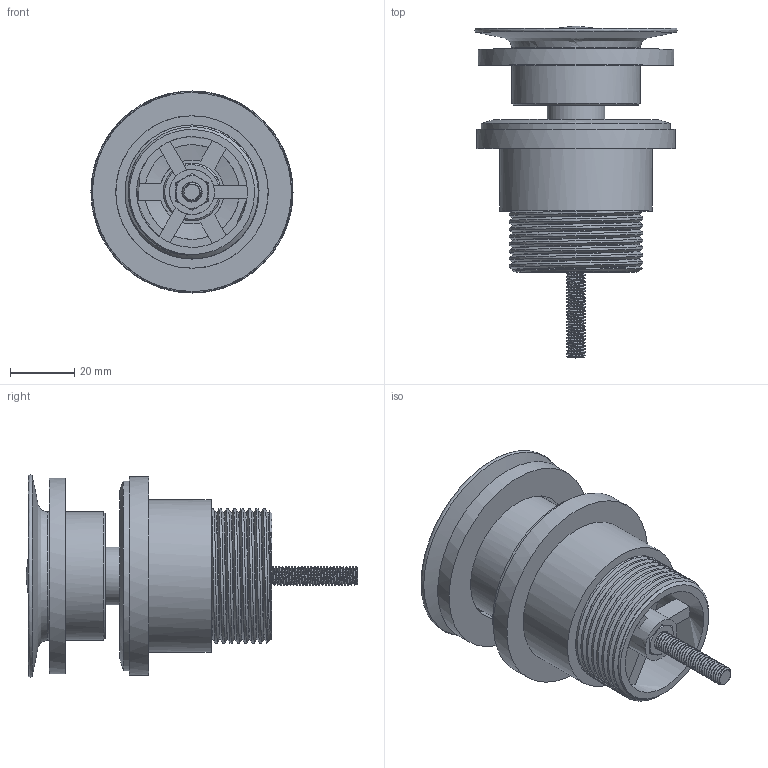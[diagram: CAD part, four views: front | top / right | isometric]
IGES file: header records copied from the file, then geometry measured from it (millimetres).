
Global section: file name: 126a7eae-fbd5-4f45-a236-d78b50ed3130.zip; native system: unknown; preprocessor: unknown; author: unknown; organization: unknown; date: 20191212.143342; units: millimetre
Bounding box: 63 x 103.52 x 63 mm (x, y, z)
Volume: 53326.7 mm3; surface area: 52138.7 mm2
Topology: 11 solids, 11 shells, 372 faces, 1249 edges, 916 vertices
Faces by surface type: bspline 372
